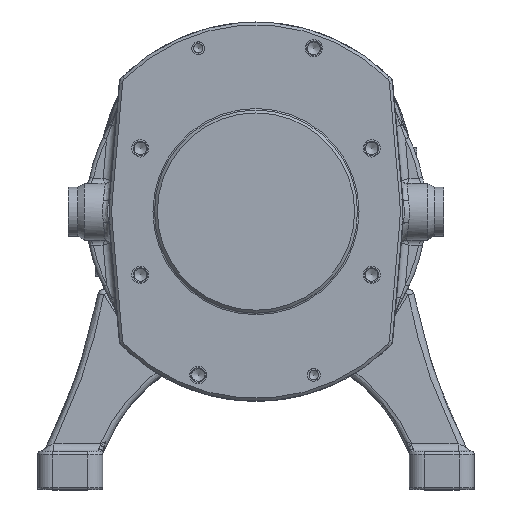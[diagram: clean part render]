
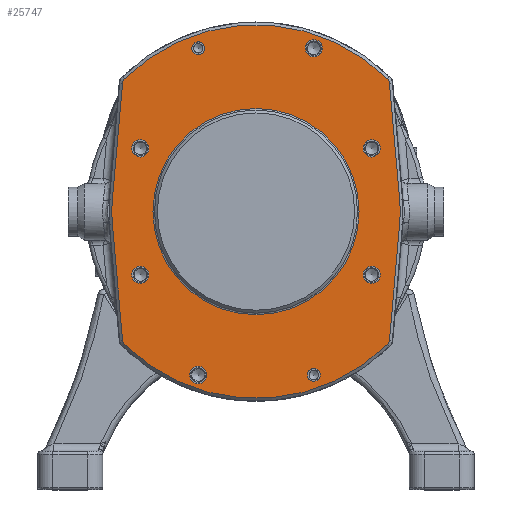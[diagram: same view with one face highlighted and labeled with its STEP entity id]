
A CAD part, top view. The second image highlights one B-rep face of the part: STEP entity #25747.
In plain terms, the highlighted planar face has unit normal (0, 0, 1) as drawn and (-1, 0, 0) by its records, which use the part's own axes.
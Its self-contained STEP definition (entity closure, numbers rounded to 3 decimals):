
#1243=FACE_BOUND('',#5168,.T.);
#1244=FACE_BOUND('',#5169,.T.);
#1245=FACE_BOUND('',#5170,.T.);
#1246=FACE_BOUND('',#5171,.T.);
#1247=FACE_BOUND('',#5172,.T.);
#1248=FACE_BOUND('',#5173,.T.);
#1249=FACE_BOUND('',#5174,.T.);
#1250=FACE_BOUND('',#5175,.T.);
#1251=FACE_BOUND('',#5176,.T.);
#2285=PLANE('',#28098);
#3515=FACE_OUTER_BOUND('',#5167,.T.);
#5167=EDGE_LOOP('',(#19773,#19774,#19775,#19776,#19777,#19778,#19779,#19780,
#19781,#19782,#19783,#19784));
#5168=EDGE_LOOP('',(#19785));
#5169=EDGE_LOOP('',(#19786));
#5170=EDGE_LOOP('',(#19787));
#5171=EDGE_LOOP('',(#19788));
#5172=EDGE_LOOP('',(#19789));
#5173=EDGE_LOOP('',(#19790));
#5174=EDGE_LOOP('',(#19791));
#5175=EDGE_LOOP('',(#19792));
#5176=EDGE_LOOP('',(#19793));
#6810=LINE('',#43973,#8057);
#6811=LINE('',#43977,#8058);
#6812=LINE('',#43985,#8059);
#6813=LINE('',#43989,#8060);
#8057=VECTOR('',#32854,10.);
#8058=VECTOR('',#32857,10.);
#8059=VECTOR('',#32864,10.);
#8060=VECTOR('',#32867,10.);
#9397=CIRCLE('',#28033,3.324);
#9399=CIRCLE('',#28036,3.324);
#9401=CIRCLE('',#28039,4.5);
#9403=CIRCLE('',#28042,4.5);
#9405=CIRCLE('',#28045,4.5);
#9407=CIRCLE('',#28048,4.5);
#9409=CIRCLE('',#28051,4.5);
#9411=CIRCLE('',#28054,4.5);
#9428=CIRCLE('',#28092,53.8);
#9433=CIRCLE('',#28099,97.5);
#9434=CIRCLE('',#28100,3.5);
#9435=CIRCLE('',#28101,73.5);
#9436=CIRCLE('',#28102,3.5);
#9437=CIRCLE('',#28103,97.5);
#9438=CIRCLE('',#28104,3.5);
#9439=CIRCLE('',#28105,73.5);
#9440=CIRCLE('',#28106,3.5);
#11475=VERTEX_POINT('',#43809);
#11477=VERTEX_POINT('',#43815);
#11479=VERTEX_POINT('',#43821);
#11481=VERTEX_POINT('',#43827);
#11483=VERTEX_POINT('',#43833);
#11485=VERTEX_POINT('',#43839);
#11487=VERTEX_POINT('',#43845);
#11489=VERTEX_POINT('',#43851);
#11522=VERTEX_POINT('',#43955);
#11526=VERTEX_POINT('',#43967);
#11527=VERTEX_POINT('',#43968);
#11528=VERTEX_POINT('',#43970);
#11529=VERTEX_POINT('',#43972);
#11530=VERTEX_POINT('',#43974);
#11531=VERTEX_POINT('',#43976);
#11532=VERTEX_POINT('',#43978);
#11533=VERTEX_POINT('',#43980);
#11534=VERTEX_POINT('',#43982);
#11535=VERTEX_POINT('',#43984);
#11536=VERTEX_POINT('',#43986);
#11537=VERTEX_POINT('',#43988);
#14393=EDGE_CURVE('',#11475,#11475,#9397,.T.);
#14396=EDGE_CURVE('',#11477,#11477,#9399,.T.);
#14399=EDGE_CURVE('',#11479,#11479,#9401,.T.);
#14402=EDGE_CURVE('',#11481,#11481,#9403,.T.);
#14405=EDGE_CURVE('',#11483,#11483,#9405,.T.);
#14408=EDGE_CURVE('',#11485,#11485,#9407,.T.);
#14411=EDGE_CURVE('',#11487,#11487,#9409,.T.);
#14414=EDGE_CURVE('',#11489,#11489,#9411,.T.);
#14463=EDGE_CURVE('',#11522,#11522,#9428,.T.);
#14469=EDGE_CURVE('',#11526,#11527,#9433,.T.);
#14470=EDGE_CURVE('',#11528,#11526,#9434,.T.);
#14471=EDGE_CURVE('',#11529,#11528,#6810,.T.);
#14472=EDGE_CURVE('',#11530,#11529,#9435,.T.);
#14473=EDGE_CURVE('',#11531,#11530,#6811,.T.);
#14474=EDGE_CURVE('',#11532,#11531,#9436,.T.);
#14475=EDGE_CURVE('',#11533,#11532,#9437,.T.);
#14476=EDGE_CURVE('',#11534,#11533,#9438,.T.);
#14477=EDGE_CURVE('',#11535,#11534,#6812,.T.);
#14478=EDGE_CURVE('',#11536,#11535,#9439,.T.);
#14479=EDGE_CURVE('',#11537,#11536,#6813,.T.);
#14480=EDGE_CURVE('',#11527,#11537,#9440,.T.);
#19773=ORIENTED_EDGE('',*,*,#14469,.F.);
#19774=ORIENTED_EDGE('',*,*,#14470,.F.);
#19775=ORIENTED_EDGE('',*,*,#14471,.F.);
#19776=ORIENTED_EDGE('',*,*,#14472,.F.);
#19777=ORIENTED_EDGE('',*,*,#14473,.F.);
#19778=ORIENTED_EDGE('',*,*,#14474,.F.);
#19779=ORIENTED_EDGE('',*,*,#14475,.F.);
#19780=ORIENTED_EDGE('',*,*,#14476,.F.);
#19781=ORIENTED_EDGE('',*,*,#14477,.F.);
#19782=ORIENTED_EDGE('',*,*,#14478,.F.);
#19783=ORIENTED_EDGE('',*,*,#14479,.F.);
#19784=ORIENTED_EDGE('',*,*,#14480,.F.);
#19785=ORIENTED_EDGE('',*,*,#14393,.T.);
#19786=ORIENTED_EDGE('',*,*,#14396,.T.);
#19787=ORIENTED_EDGE('',*,*,#14399,.T.);
#19788=ORIENTED_EDGE('',*,*,#14402,.T.);
#19789=ORIENTED_EDGE('',*,*,#14405,.T.);
#19790=ORIENTED_EDGE('',*,*,#14408,.T.);
#19791=ORIENTED_EDGE('',*,*,#14411,.T.);
#19792=ORIENTED_EDGE('',*,*,#14414,.T.);
#19793=ORIENTED_EDGE('',*,*,#14463,.F.);
#25747=ADVANCED_FACE('',(#3515,#1243,#1244,#1245,#1246,#1247,#1248,#1249,
#1250,#1251),#2285,.F.);
#28033=AXIS2_PLACEMENT_3D('',#43811,#32678,#32679);
#28036=AXIS2_PLACEMENT_3D('',#43817,#32685,#32686);
#28039=AXIS2_PLACEMENT_3D('',#43823,#32692,#32693);
#28042=AXIS2_PLACEMENT_3D('',#43829,#32699,#32700);
#28045=AXIS2_PLACEMENT_3D('',#43835,#32706,#32707);
#28048=AXIS2_PLACEMENT_3D('',#43841,#32713,#32714);
#28051=AXIS2_PLACEMENT_3D('',#43847,#32720,#32721);
#28054=AXIS2_PLACEMENT_3D('',#43853,#32727,#32728);
#28092=AXIS2_PLACEMENT_3D('',#43956,#32835,#32836);
#28098=AXIS2_PLACEMENT_3D('',#43966,#32848,#32849);
#28099=AXIS2_PLACEMENT_3D('',#43969,#32850,#32851);
#28100=AXIS2_PLACEMENT_3D('',#43971,#32852,#32853);
#28101=AXIS2_PLACEMENT_3D('',#43975,#32855,#32856);
#28102=AXIS2_PLACEMENT_3D('',#43979,#32858,#32859);
#28103=AXIS2_PLACEMENT_3D('',#43981,#32860,#32861);
#28104=AXIS2_PLACEMENT_3D('',#43983,#32862,#32863);
#28105=AXIS2_PLACEMENT_3D('',#43987,#32865,#32866);
#28106=AXIS2_PLACEMENT_3D('',#43990,#32868,#32869);
#32678=DIRECTION('center_axis',(1.,0.,0.));
#32679=DIRECTION('ref_axis',(0.,1.,0.));
#32685=DIRECTION('center_axis',(1.,0.,0.));
#32686=DIRECTION('ref_axis',(0.,1.,0.));
#32692=DIRECTION('center_axis',(1.,0.,0.));
#32693=DIRECTION('ref_axis',(0.,1.,0.));
#32699=DIRECTION('center_axis',(1.,0.,0.));
#32700=DIRECTION('ref_axis',(0.,1.,0.));
#32706=DIRECTION('center_axis',(1.,0.,0.));
#32707=DIRECTION('ref_axis',(0.,1.,0.));
#32713=DIRECTION('center_axis',(1.,0.,0.));
#32714=DIRECTION('ref_axis',(0.,1.,0.));
#32720=DIRECTION('center_axis',(1.,0.,0.));
#32721=DIRECTION('ref_axis',(0.,1.,0.));
#32727=DIRECTION('center_axis',(1.,0.,0.));
#32728=DIRECTION('ref_axis',(0.,1.,0.));
#32835=DIRECTION('center_axis',(-1.,0.,0.));
#32836=DIRECTION('ref_axis',(0.,-1.,0.));
#32848=DIRECTION('center_axis',(1.,0.,0.));
#32849=DIRECTION('ref_axis',(0.,0.,-1.));
#32850=DIRECTION('center_axis',(1.,0.,0.));
#32851=DIRECTION('ref_axis',(0.,0.697,-0.717));
#32852=DIRECTION('center_axis',(1.,0.,0.));
#32853=DIRECTION('ref_axis',(0.,0.425,-0.905));
#32854=DIRECTION('',(0.,0.996,0.087));
#32855=DIRECTION('center_axis',(1.,0.,0.));
#32856=DIRECTION('ref_axis',(0.,0.,-1.));
#32857=DIRECTION('',(0.,0.996,-0.087));
#32858=DIRECTION('center_axis',(1.,0.,0.));
#32859=DIRECTION('ref_axis',(0.,-0.425,-0.905));
#32860=DIRECTION('center_axis',(1.,0.,0.));
#32861=DIRECTION('ref_axis',(0.,-0.697,0.717));
#32862=DIRECTION('center_axis',(1.,0.,0.));
#32863=DIRECTION('ref_axis',(0.,-0.425,0.905));
#32864=DIRECTION('',(0.,-0.996,-0.087));
#32865=DIRECTION('center_axis',(1.,0.,0.));
#32866=DIRECTION('ref_axis',(0.,0.,1.));
#32867=DIRECTION('',(0.,-0.996,0.087));
#32868=DIRECTION('center_axis',(1.,0.,0.));
#32869=DIRECTION('ref_axis',(0.,0.425,0.905));
#43809=CARTESIAN_POINT('',(-18.,48.937,-30.18));
#43811=CARTESIAN_POINT('Origin',(-18.,52.26,-30.18));
#43815=CARTESIAN_POINT('',(-18.,-121.584,30.18));
#43817=CARTESIAN_POINT('Origin',(-18.,-118.26,30.18));
#43821=CARTESIAN_POINT('',(-18.,-70.5,-60.35));
#43823=CARTESIAN_POINT('Origin',(-18.,-66.,-60.35));
#43827=CARTESIAN_POINT('',(-18.,-4.5,60.35));
#43829=CARTESIAN_POINT('Origin',(-18.,0.,60.35));
#43833=CARTESIAN_POINT('',(-18.,47.76,30.18));
#43835=CARTESIAN_POINT('Origin',(-18.,52.26,30.18));
#43839=CARTESIAN_POINT('',(-18.,-122.76,-30.18));
#43841=CARTESIAN_POINT('Origin',(-18.,-118.26,-30.18));
#43845=CARTESIAN_POINT('',(-18.,-4.5,-60.35));
#43847=CARTESIAN_POINT('Origin',(-18.,0.,-60.35));
#43851=CARTESIAN_POINT('',(-18.,-70.5,60.35));
#43853=CARTESIAN_POINT('Origin',(-18.,-66.,60.35));
#43955=CARTESIAN_POINT('',(-18.,-33.,-53.8));
#43956=CARTESIAN_POINT('Origin',(-18.,-33.,0.));
#43966=CARTESIAN_POINT('Origin',(-18.,66.,0.));
#43967=CARTESIAN_POINT('',(-18.,36.244,-68.64));
#43968=CARTESIAN_POINT('',(-18.,36.244,68.64));
#43969=CARTESIAN_POINT('Origin',(-18.,-33.,0.));
#43970=CARTESIAN_POINT('',(-18.,34.063,-69.663));
#43971=CARTESIAN_POINT('Origin',(-18.,33.758,-66.176));
#43972=CARTESIAN_POINT('',(-18.,-26.594,-74.97));
#43973=CARTESIAN_POINT('',(-18.,19.338,-70.951));
#43974=CARTESIAN_POINT('',(-18.,-39.406,-74.97));
#43975=CARTESIAN_POINT('Origin',(-18.,-33.,-1.75));
#43976=CARTESIAN_POINT('',(-18.,-100.063,-69.663));
#43977=CARTESIAN_POINT('',(-18.,-21.586,-76.529));
#43978=CARTESIAN_POINT('',(-18.,-102.244,-68.64));
#43979=CARTESIAN_POINT('Origin',(-18.,-99.758,-66.176));
#43980=CARTESIAN_POINT('',(-18.,-102.244,68.64));
#43981=CARTESIAN_POINT('Origin',(-18.,-33.,0.));
#43982=CARTESIAN_POINT('',(-18.,-100.063,69.663));
#43983=CARTESIAN_POINT('Origin',(-18.,-99.758,66.176));
#43984=CARTESIAN_POINT('',(-18.,-39.406,74.97));
#43985=CARTESIAN_POINT('',(-18.,12.91,79.547));
#43986=CARTESIAN_POINT('',(-18.,-26.594,74.97));
#43987=CARTESIAN_POINT('Origin',(-18.,-33.,1.75));
#43988=CARTESIAN_POINT('',(-18.,34.063,69.663));
#43989=CARTESIAN_POINT('',(-18.,53.834,67.933));
#43990=CARTESIAN_POINT('Origin',(-18.,33.758,66.176));
